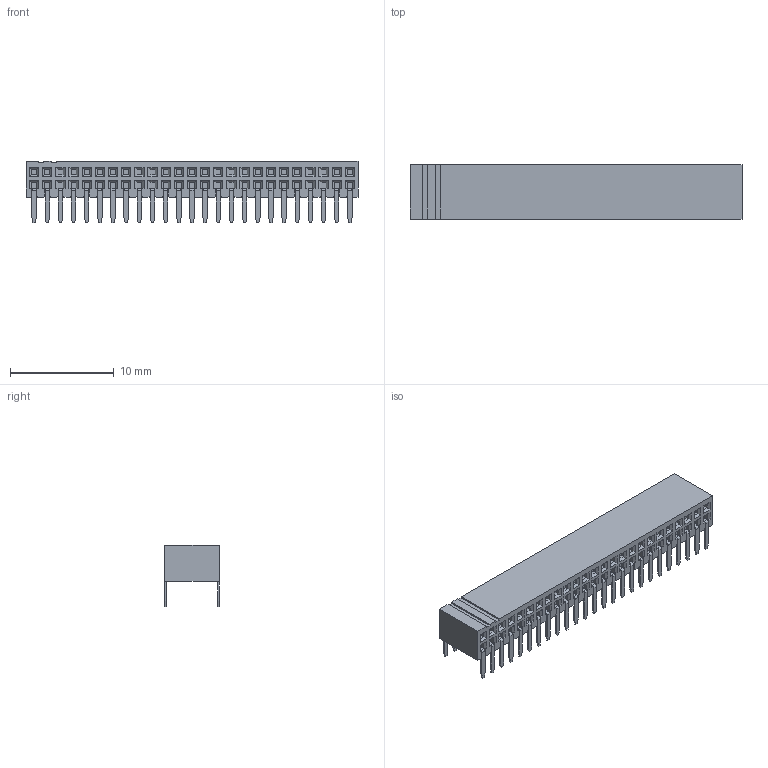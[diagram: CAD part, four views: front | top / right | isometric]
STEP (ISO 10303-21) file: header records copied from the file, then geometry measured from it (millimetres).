
FILE_DESCRIPTION (( 'STEP AP203' ), '1' );
FILE_NAME ('2249-2X25G00SU-1110331.STEP', '2022-03-31T08:18:42', ( '' ), ( '' ), 'SwSTEP 2.0', 'SolidWorks 2019', '' );
FILE_SCHEMA (( 'CONFIG_CONTROL_DESIGN' ));
Length unit declared in the file: millimetre
Products named in the file (2): 2249-2X25G00SU-1110331
Assembly tree (1 placements, depth 2):
  2249-2X25G00SU-1110331
    2249-2X25G00SU-1110331
Bounding box: 32.05 x 5.23 x 5.9 mm (x, y, z)
Volume: 551 mm3; surface area: 972.2 mm2
Topology: 25 solids, 25 shells, 1409 faces, 3742 edges, 2408 vertices
Faces by surface type: plane 1236, cylinder 123, bspline 50
Entity records: 43530 total; most frequent: CARTESIAN_POINT 8563, ORIENTED_EDGE 7484, DIRECTION 6664, EDGE_CURVE 3742, VECTOR 3446, LINE 3446, VERTEX_POINT 2408, AXIS2_PLACEMENT_3D 1609
